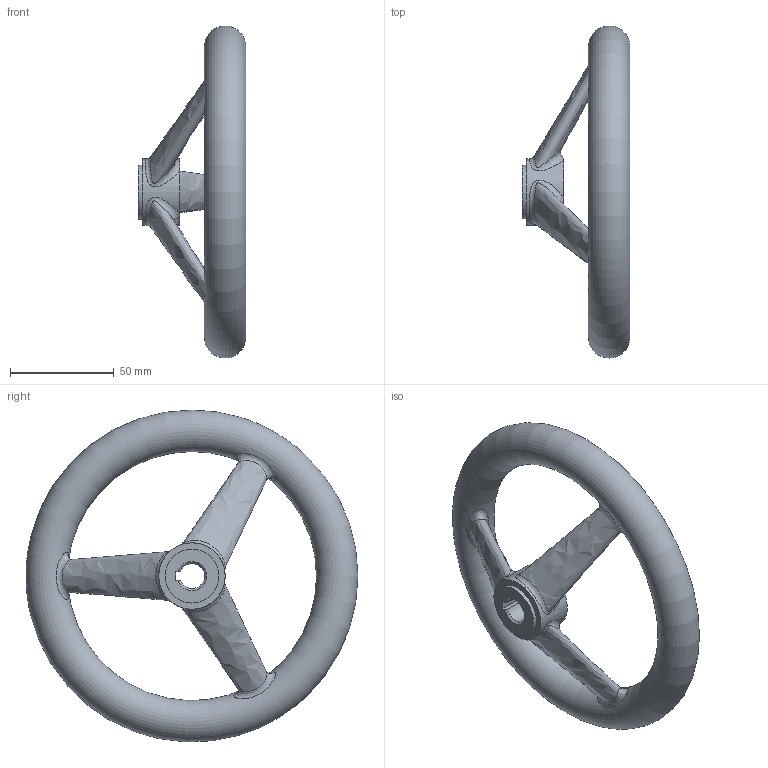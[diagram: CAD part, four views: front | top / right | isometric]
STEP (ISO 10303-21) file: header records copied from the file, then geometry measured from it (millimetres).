
FILE_DESCRIPTION(/* description */ (''),/* implementation_level */ '2;1');
FILE_NAME(/* name */ '',/* time_stamp */ '2024-08-29T13:10:43+09:00',/* author */ ('jhkim'),/* organization */ (''),/* preprocessor_version */ 'ST-DEVELOPER v20',/* originating_system */ 'Autodesk Inventor 2025',/* authorisation */ '');
FILE_SCHEMA (('AUTOMOTIVE_DESIGN { 1 0 10303 214 3 1 1 }'));
Length unit declared in the file: millimetre
Products named in the file (1): 핸들
Bounding box: 51.95 x 159.99 x 159.94 mm (x, y, z)
Volume: 173855.1 mm3; surface area: 38107.7 mm2
Topology: 1 solids, 1 shells, 20 faces, 68 edges, 45 vertices
Faces by surface type: bspline 9, plane 6, cylinder 3, cone 1, torus 1
Full cylindrical faces by diameter (mm): 26 x1, 32 x1
Entity records: 2537 total; most frequent: CARTESIAN_POINT 1960, ORIENTED_EDGE 136, DIRECTION 81, EDGE_CURVE 68, VERTEX_POINT 45, AXIS2_PLACEMENT_3D 33, B_SPLINE_CURVE_WITH_KNOTS 30, EDGE_LOOP 23
